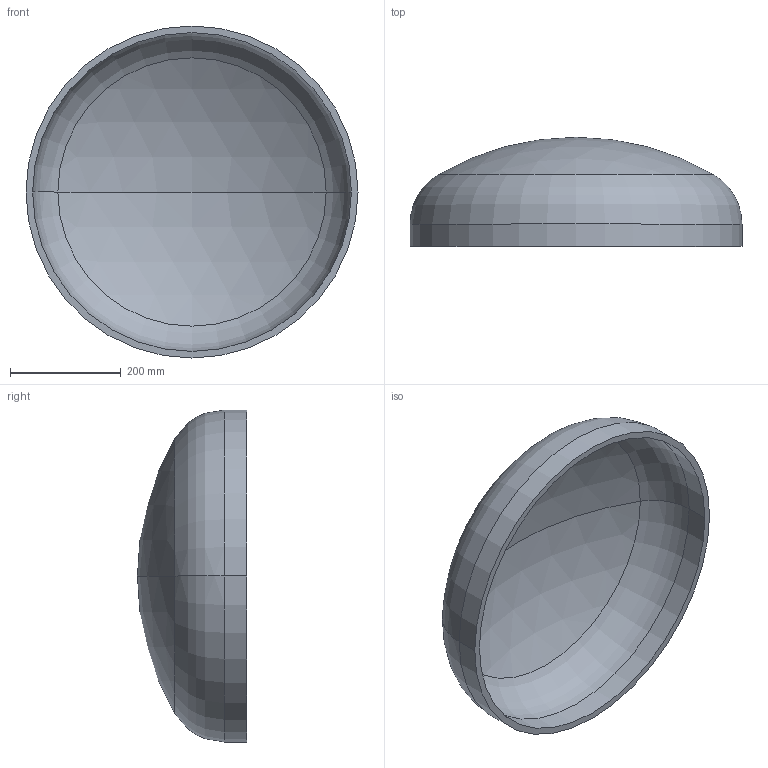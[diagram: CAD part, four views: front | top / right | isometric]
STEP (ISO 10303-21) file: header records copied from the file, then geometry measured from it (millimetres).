
FILE_DESCRIPTION (( 'STEP AP203' ), '1' );
FILE_NAME ('DIN 28013 Korbbogenform_-_Boden DIN 28013 - 600 x 40 - I - s=12.step', '2016-07-01T07:57:30', ( '' ), ( '' ), 'SwSTEP 2.0', 'SolidWorks 2013', '' );
FILE_SCHEMA (( 'CONFIG_CONTROL_DESIGN' ));
Length unit declared in the file: millimetre
Products named in the file (1): DIN 28013 Korbbogenform_-_Boden DIN 28013 - 600 x 40 - I - s=12
Bounding box: 600 x 197.14 x 600 mm (x, y, z)
Volume: 5459780.2 mm3; surface area: 932431.7 mm2
Topology: 1 solids, 1 shells, 13 faces, 24 edges, 14 vertices
Faces by surface type: torus 4, cylinder 4, sphere 4, plane 1
Entity records: 407 total; most frequent: DIRECTION 72, CARTESIAN_POINT 52, ORIENTED_EDGE 48, AXIS2_PLACEMENT_3D 34, EDGE_CURVE 24, CIRCLE 20, VERTEX_POINT 14, EDGE_LOOP 14
